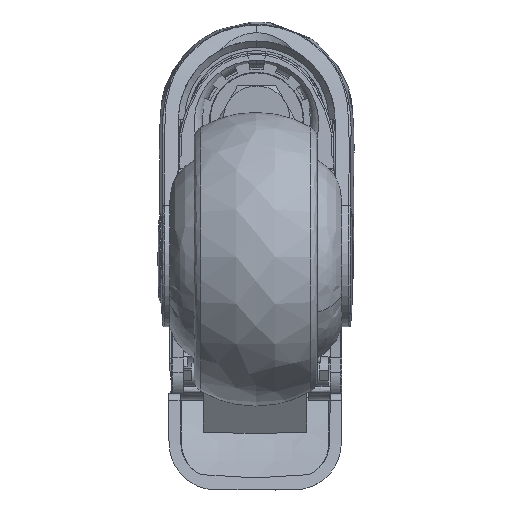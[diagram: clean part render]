
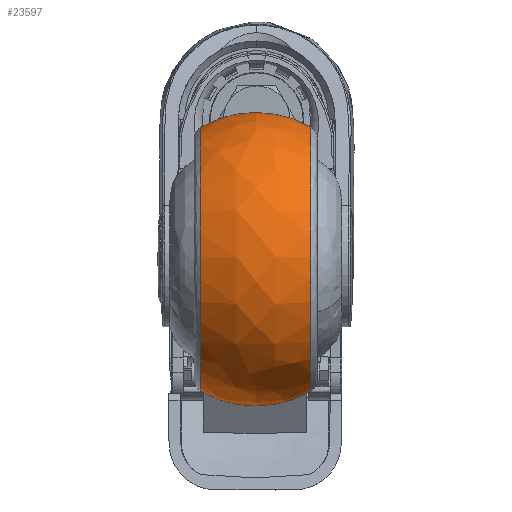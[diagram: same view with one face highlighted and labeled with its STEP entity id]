
A CAD part, front view. The second image highlights one B-rep face of the part: STEP entity #23597.
In plain terms, the highlighted free-form (B-spline) face has degree [3, 3] with [4, 4] control points.
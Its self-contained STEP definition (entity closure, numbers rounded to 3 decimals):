
#3030 = VERTEX_POINT ( 'NONE', #5713 ) ;
#3044 = VERTEX_POINT ( 'NONE', #5732 ) ;
#5713 = CARTESIAN_POINT ( 'NONE',  ( 10.327, -39.962, 11.614 ) ) ;
#5732 = CARTESIAN_POINT ( 'NONE',  ( 10.327, -41.14, -55.873 ) ) ;
#15411 = CARTESIAN_POINT ( 'NONE',  ( 38.327, -39.962, 11.614 ) ) ;
#16360 = VERTEX_POINT ( 'NONE', #15411 ) ;
#16593 = AXIS2_PLACEMENT_3D ( 'NONE', #16633, #16632, #16631 ) ;
#16598 = CARTESIAN_POINT ( 'NONE',  ( 24.327, -40.385, -12.631 ) ) ;
#16599 = AXIS2_PLACEMENT_3D ( 'NONE', #16598, #16636, #16635 ) ;
#16600 = CIRCLE ( 'NONE', #16599, 28. ) ;
#16601 = CIRCLE ( 'NONE', #16593, 28. ) ;
#16631 = DIRECTION ( 'NONE',  ( 0., -0.017, -1. ) ) ;
#16632 = DIRECTION ( 'NONE',  ( 0., 1., -0.017 ) ) ;
#16633 = CARTESIAN_POINT ( 'NONE',  ( 24.327, -40.717, -31.628 ) ) ;
#16635 = DIRECTION ( 'NONE',  ( 0., 0.017, 1. ) ) ;
#16636 = DIRECTION ( 'NONE',  ( 0., -1., 0.017 ) ) ;
#17751 = DIRECTION ( 'NONE',  ( 0., 0.017, 1. ) ) ;
#17752 = DIRECTION ( 'NONE',  ( -1., 0., 0. ) ) ;
#17753 = CARTESIAN_POINT ( 'NONE',  ( 38.327, -40.551, -22.129 ) ) ;
#17758 = AXIS2_PLACEMENT_3D ( 'NONE', #17753, #17752, #17751 ) ;
#17774 = CIRCLE ( 'NONE', #17758, 33.749 ) ;
#17822 = EDGE_CURVE ( 'NONE', #16360, #3030, #16600, .T. ) ;
#17888 = EDGE_CURVE ( 'NONE', #24176, #3044, #16601, .T. ) ;
#17958 = AXIS2_PLACEMENT_3D ( 'NONE', #18091, #18084, #18083 ) ;
#18083 = DIRECTION ( 'NONE',  ( 0., 0.017, 1. ) ) ;
#18084 = DIRECTION ( 'NONE',  ( 1., 0., 0. ) ) ;
#18091 = CARTESIAN_POINT ( 'NONE',  ( 10.327, -40.551, -22.129 ) ) ;
#18092 = CIRCLE ( 'NONE', #17958, 33.749 ) ;
#18215 = FACE_OUTER_BOUND ( 'NONE', #22436, .T. ) ;
#18233 =( BOUNDED_SURFACE ( )  B_SPLINE_SURFACE ( 3, 3, ( 
 ( #18280, #18279, #18278, #18277 ),
 ( #18276, #18275, #18274, #18273 ),
 ( #18272, #18271, #18270, #18269 ),
 ( #18268, #18267, #18266, #18265 ) ),
 .UNSPECIFIED., .F., .F., .T. ) 
 B_SPLINE_SURFACE_WITH_KNOTS ( ( 4, 4 ),
 ( 4, 4 ),
 ( 0., 1. ),
 ( 0., 1. ),
 .UNSPECIFIED. ) 
 GEOMETRIC_REPRESENTATION_ITEM ( )  RATIONAL_B_SPLINE_SURFACE ( (
 ( 1., 0.333, 0.333, 1.),
 ( 0.911, 0.304, 0.304, 0.911),
 ( 0.911, 0.304, 0.304, 0.911),
 ( 1., 0.333, 0.333, 1.) ) ) 
 REPRESENTATION_ITEM ( '' )  SURFACE ( )  );
#18265 = CARTESIAN_POINT ( 'NONE',  ( 10.327, -41.14, -55.873 ) ) ;
#18266 = CARTESIAN_POINT ( 'NONE',  ( 10.327, -108.627, -54.695 ) ) ;
#18267 = CARTESIAN_POINT ( 'NONE',  ( 10.327, -107.449, 12.792 ) ) ;
#18268 = CARTESIAN_POINT ( 'NONE',  ( 10.327, -39.962, 11.614 ) ) ;
#18269 = CARTESIAN_POINT ( 'NONE',  ( 19.203, -41.229, -60.996 ) ) ;
#18270 = CARTESIAN_POINT ( 'NONE',  ( 19.203, -118.964, -59.64 ) ) ;
#18271 = CARTESIAN_POINT ( 'NONE',  ( 19.203, -117.607, 18.095 ) ) ;
#18272 = CARTESIAN_POINT ( 'NONE',  ( 19.203, -39.873, 16.738 ) ) ;
#18273 = CARTESIAN_POINT ( 'NONE',  ( 29.451, -41.229, -60.996 ) ) ;
#18274 = CARTESIAN_POINT ( 'NONE',  ( 29.451, -118.964, -59.64 ) ) ;
#18275 = CARTESIAN_POINT ( 'NONE',  ( 29.451, -117.607, 18.095 ) ) ;
#18276 = CARTESIAN_POINT ( 'NONE',  ( 29.451, -39.873, 16.738 ) ) ;
#18277 = CARTESIAN_POINT ( 'NONE',  ( 38.327, -41.14, -55.873 ) ) ;
#18278 = CARTESIAN_POINT ( 'NONE',  ( 38.327, -108.627, -54.695 ) ) ;
#18279 = CARTESIAN_POINT ( 'NONE',  ( 38.327, -107.449, 12.792 ) ) ;
#18280 = CARTESIAN_POINT ( 'NONE',  ( 38.327, -39.962, 11.614 ) ) ;
#18424 = CARTESIAN_POINT ( 'NONE',  ( 38.327, -41.14, -55.873 ) ) ;
#21134 = ORIENTED_EDGE ( 'NONE', *, *, #22638, .T. ) ;
#22218 = EDGE_CURVE ( 'NONE', #24176, #16360, #17774, .T. ) ;
#22436 = EDGE_LOOP ( 'NONE', ( #23399, #22446, #22645, #21134 ) ) ;
#22446 = ORIENTED_EDGE ( 'NONE', *, *, #22218, .T. ) ;
#22638 = EDGE_CURVE ( 'NONE', #3030, #3044, #18092, .T. ) ;
#22645 = ORIENTED_EDGE ( 'NONE', *, *, #17822, .T. ) ;
#23399 = ORIENTED_EDGE ( 'NONE', *, *, #17888, .F. ) ;
#23597 = ADVANCED_FACE ( 'NONE', ( #18215 ), #18233, .T. ) ;
#24176 = VERTEX_POINT ( 'NONE', #18424 ) ;
